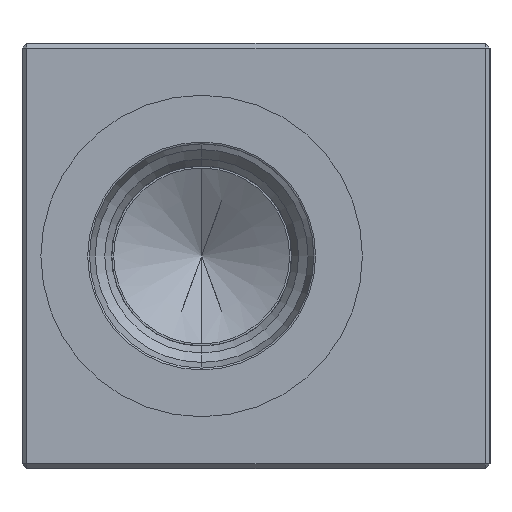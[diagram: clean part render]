
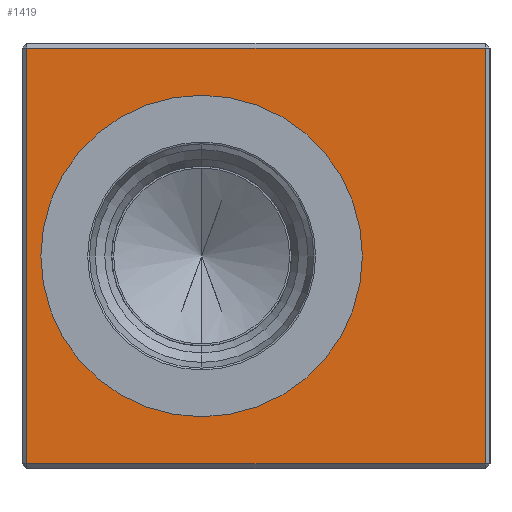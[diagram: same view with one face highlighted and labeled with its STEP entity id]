
A CAD part, left-side view. The second image highlights one B-rep face of the part: STEP entity #1419.
In plain terms, the highlighted planar face has unit normal (-1, 0, 0).
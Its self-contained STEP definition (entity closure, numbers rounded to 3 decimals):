
#28 = CARTESIAN_POINT ( 'NONE',  ( 0., 24.25, -22.5 ) ) ;
#449 = DIRECTION ( 'NONE',  ( 0., 0., -1. ) ) ;
#597 = VECTOR ( 'NONE', #2987, 1000. ) ;
#605 = VECTOR ( 'NONE', #2645, 1000. ) ;
#616 = CARTESIAN_POINT ( 'NONE',  ( 0., 5.75, 0. ) ) ;
#650 = ORIENTED_EDGE ( 'NONE', *, *, #3464, .F. ) ;
#728 = VERTEX_POINT ( 'NONE', #2839 ) ;
#743 = VECTOR ( 'NONE', #449, 1000. ) ;
#786 = VERTEX_POINT ( 'NONE', #1132 ) ;
#820 = CARTESIAN_POINT ( 'NONE',  ( 0., 0., 0. ) ) ;
#840 = CARTESIAN_POINT ( 'NONE',  ( 0., 24.75, 22. ) ) ;
#859 = CARTESIAN_POINT ( 'NONE',  ( 0., -24.25, 22.5 ) ) ;
#874 = VERTEX_POINT ( 'NONE', #1270 ) ;
#914 = EDGE_LOOP ( 'NONE', ( #3282, #650 ) ) ;
#919 = FACE_OUTER_BOUND ( 'NONE', #3669, .T. ) ;
#942 = EDGE_CURVE ( 'NONE', #1013, #1068, #1919, .T. ) ;
#1013 = VERTEX_POINT ( 'NONE', #4223 ) ;
#1042 = ORIENTED_EDGE ( 'NONE', *, *, #2343, .T. ) ;
#1068 = VERTEX_POINT ( 'NONE', #1446 ) ;
#1132 = CARTESIAN_POINT ( 'NONE',  ( 0., -24.25, -22. ) ) ;
#1210 = VECTOR ( 'NONE', #2965, 1000. ) ;
#1270 = CARTESIAN_POINT ( 'NONE',  ( 0., 24.25, -22. ) ) ;
#1319 = DIRECTION ( 'NONE',  ( 0., 0., 1. ) ) ;
#1326 = AXIS2_PLACEMENT_3D ( 'NONE', #820, #4384, #1892 ) ;
#1419 = ADVANCED_FACE ( 'NONE', ( #919, #2290 ), #3752, .T. ) ;
#1446 = CARTESIAN_POINT ( 'NONE',  ( 0., 5.75, -17. ) ) ;
#1477 = VERTEX_POINT ( 'NONE', #4476 ) ;
#1584 = LINE ( 'NONE', #1887, #605 ) ;
#1887 = CARTESIAN_POINT ( 'NONE',  ( 0., -24.75, -22. ) ) ;
#1892 = DIRECTION ( 'NONE',  ( 0., 0., 1. ) ) ;
#1919 = CIRCLE ( 'NONE', #2505, 17. ) ;
#2052 = ORIENTED_EDGE ( 'NONE', *, *, #2667, .T. ) ;
#2086 = AXIS2_PLACEMENT_3D ( 'NONE', #3077, #2426, #1319 ) ;
#2290 = FACE_BOUND ( 'NONE', #914, .T. ) ;
#2343 = EDGE_CURVE ( 'NONE', #786, #728, #3408, .T. ) ;
#2400 = ORIENTED_EDGE ( 'NONE', *, *, #4050, .T. ) ;
#2426 = DIRECTION ( 'NONE',  ( -1., 0., 0. ) ) ;
#2505 = AXIS2_PLACEMENT_3D ( 'NONE', #616, #3762, #3055 ) ;
#2645 = DIRECTION ( 'NONE',  ( 0., -1., 0. ) ) ;
#2667 = EDGE_CURVE ( 'NONE', #1477, #874, #3230, .T. ) ;
#2702 = LINE ( 'NONE', #840, #1210 ) ;
#2839 = CARTESIAN_POINT ( 'NONE',  ( 0., -24.25, 22. ) ) ;
#2965 = DIRECTION ( 'NONE',  ( 0., 1., 0. ) ) ;
#2987 = DIRECTION ( 'NONE',  ( 0., 0., 1. ) ) ;
#3055 = DIRECTION ( 'NONE',  ( 0., 0., 1. ) ) ;
#3077 = CARTESIAN_POINT ( 'NONE',  ( 0., 5.75, 0. ) ) ;
#3230 = LINE ( 'NONE', #28, #743 ) ;
#3282 = ORIENTED_EDGE ( 'NONE', *, *, #942, .F. ) ;
#3302 = EDGE_CURVE ( 'NONE', #874, #786, #1584, .T. ) ;
#3408 = LINE ( 'NONE', #859, #597 ) ;
#3464 = EDGE_CURVE ( 'NONE', #1068, #1013, #4629, .T. ) ;
#3669 = EDGE_LOOP ( 'NONE', ( #4158, #1042, #2400, #2052 ) ) ;
#3752 = PLANE ( 'NONE',  #1326 ) ;
#3762 = DIRECTION ( 'NONE',  ( -1., 0., 0. ) ) ;
#4050 = EDGE_CURVE ( 'NONE', #728, #1477, #2702, .T. ) ;
#4158 = ORIENTED_EDGE ( 'NONE', *, *, #3302, .T. ) ;
#4223 = CARTESIAN_POINT ( 'NONE',  ( 0., 5.75, 17. ) ) ;
#4384 = DIRECTION ( 'NONE',  ( -1., 0., 0. ) ) ;
#4476 = CARTESIAN_POINT ( 'NONE',  ( 0., 24.25, 22. ) ) ;
#4629 = CIRCLE ( 'NONE', #2086, 17. ) ;
